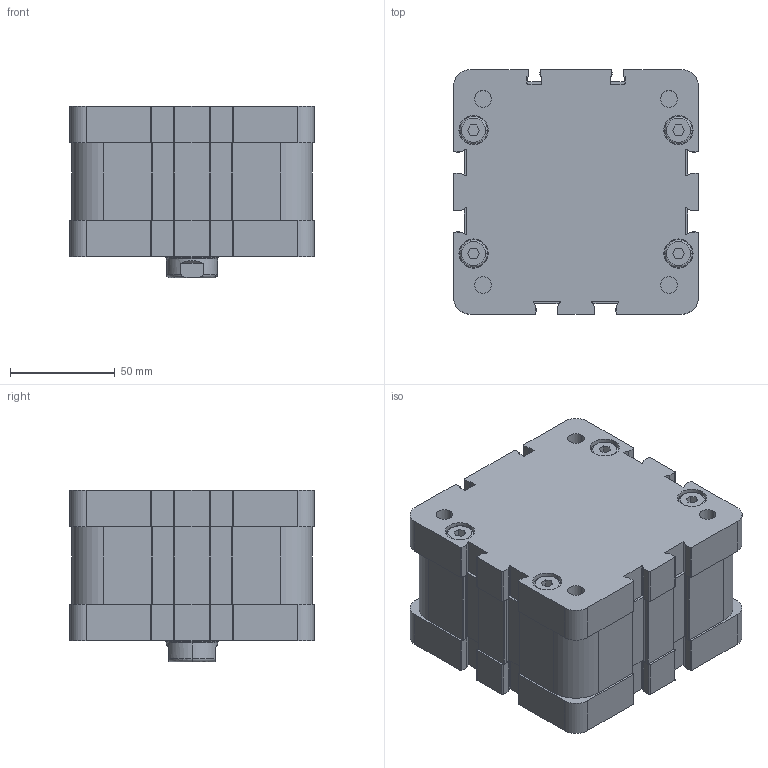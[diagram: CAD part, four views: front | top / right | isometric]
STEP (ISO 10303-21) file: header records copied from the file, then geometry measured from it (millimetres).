
FILE_DESCRIPTION((''),'2;1');
FILE_NAME('P11M21000005.stp','2010-02-24T21:38:37',('B. Petkovic 2010'),('AZ PNEUMATICA S.r.l.'),'Mechanical Desktop 2006','Mechanical Desktop 2006','Via Marco Biagi 6, I-20020 Misinto(MI) Italy, azpneu@tin.it');
FILE_SCHEMA(('CONFIG_CONTROL_DESIGN'));
Length unit declared in the file: millimetre
Products named in the file (2): P11M21000005; COMPACT CILINDRI
Assembly tree (1 placements, depth 2):
  P11M21000005
    COMPACT CILINDRI
Bounding box: 117 x 117 x 82 mm (x, y, z)
Volume: 916571.6 mm3; surface area: 82020.9 mm2
Topology: 1 solids, 1 shells, 580 faces, 1498 edges, 957 vertices
Faces by surface type: plane 362, cylinder 194, torus 18, cone 6
Entity records: 17763 total; most frequent: DIRECTION 3120, CARTESIAN_POINT 3119, ORIENTED_EDGE 2992, EDGE_CURVE 1496, AXIS2_PLACEMENT_3D 1044, VECTOR 1032, LINE 1032, VERTEX_POINT 957
